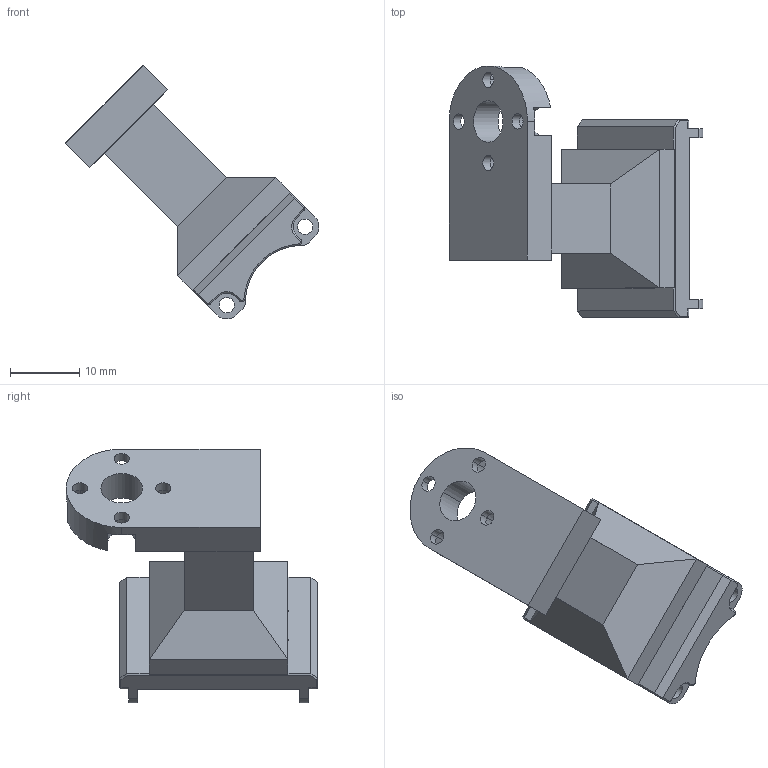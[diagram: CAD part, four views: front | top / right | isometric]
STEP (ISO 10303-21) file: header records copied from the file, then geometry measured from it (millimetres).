
FILE_DESCRIPTION (( 'STEP AP214' ), '1' );
FILE_NAME ('thumb_2.STEP', '2026-09-17T12:54:55', ( '' ), ( '' ), 'SwSTEP 2.0', 'SolidWorks 2024', '' );
FILE_SCHEMA (( 'AUTOMOTIVE_DESIGN' ));
Length unit declared in the file: millimetre
Products named in the file (2): thumb_2; 零件1^连杆装配体2_默认
Assembly tree (1 placements, depth 2):
  thumb_2
    零件1^连杆装配体2_默认
Bounding box: 36.64 x 36.3 x 36.64 mm (x, y, z)
Volume: 6810.9 mm3; surface area: 4561.7 mm2
Topology: 1 solids, 1 shells, 493 faces, 1328 edges, 852 vertices
Faces by surface type: plane 349, cylinder 118, cone 18, torus 8
Entity records: 15471 total; most frequent: CARTESIAN_POINT 2781, ORIENTED_EDGE 2656, DIRECTION 2616, EDGE_CURVE 1328, LINE 1002, VECTOR 1002, VERTEX_POINT 852, AXIS2_PLACEMENT_3D 807
